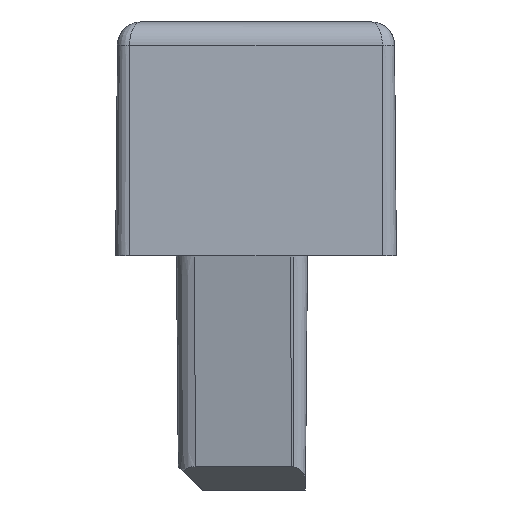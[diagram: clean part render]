
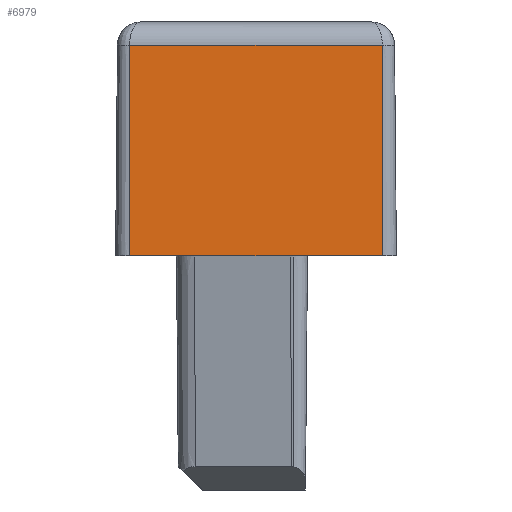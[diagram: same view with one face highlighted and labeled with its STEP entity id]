
A CAD part, left-side view. The second image highlights one B-rep face of the part: STEP entity #6979.
In plain terms, the highlighted planar face has unit normal (-1, 0, 0.009).
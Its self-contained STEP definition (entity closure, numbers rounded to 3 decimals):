
#96 = ORIENTED_EDGE ( 'NONE', *, *, #421, .F. ) ;
#328 = DIRECTION ( 'NONE',  ( 0.009, 0., 1. ) ) ;
#387 = LINE ( 'NONE', #7406, #1888 ) ;
#421 = EDGE_CURVE ( 'NONE', #7565, #6629, #8705, .T. ) ;
#423 = CARTESIAN_POINT ( 'NONE',  ( -5.5, 5.7, 0. ) ) ;
#766 = ORIENTED_EDGE ( 'NONE', *, *, #6085, .T. ) ;
#1029 = CARTESIAN_POINT ( 'NONE',  ( -5.461, 5.7, 4.504 ) ) ;
#1176 = VERTEX_POINT ( 'NONE', #5809 ) ;
#1250 = CARTESIAN_POINT ( 'NONE',  ( -5.461, 5.7, 4.504 ) ) ;
#1759 = VECTOR ( 'NONE', #4656, 1000. ) ;
#1830 = LINE ( 'NONE', #423, #1759 ) ;
#1888 = VECTOR ( 'NONE', #3150, 1000. ) ;
#1969 = DIRECTION ( 'NONE',  ( -0.009, 0., -1. ) ) ;
#2368 = PLANE ( 'NONE',  #7849 ) ;
#2606 = CARTESIAN_POINT ( 'NONE',  ( -5.5, 0.3, 0. ) ) ;
#2703 = CARTESIAN_POINT ( 'NONE',  ( -5.461, 0.3, 4.504 ) ) ;
#3150 = DIRECTION ( 'NONE',  ( -0.009, 0., -1. ) ) ;
#3524 = VERTEX_POINT ( 'NONE', #1029 ) ;
#3774 = CARTESIAN_POINT ( 'NONE',  ( -5.5, 5.7, 0. ) ) ;
#3874 = LINE ( 'NONE', #1250, #8756 ) ;
#3975 = EDGE_LOOP ( 'NONE', ( #96, #5991, #4025, #766 ) ) ;
#4012 = VECTOR ( 'NONE', #1969, 1000. ) ;
#4025 = ORIENTED_EDGE ( 'NONE', *, *, #7548, .T. ) ;
#4222 = EDGE_CURVE ( 'NONE', #7565, #3524, #3874, .T. ) ;
#4656 = DIRECTION ( 'NONE',  ( 0., -1., 0. ) ) ;
#5809 = CARTESIAN_POINT ( 'NONE',  ( -5.5, 5.7, 0. ) ) ;
#5991 = ORIENTED_EDGE ( 'NONE', *, *, #4222, .T. ) ;
#6085 = EDGE_CURVE ( 'NONE', #1176, #6629, #1830, .T. ) ;
#6558 = DIRECTION ( 'NONE',  ( -1., 0., 0.009 ) ) ;
#6629 = VERTEX_POINT ( 'NONE', #6812 ) ;
#6812 = CARTESIAN_POINT ( 'NONE',  ( -5.5, 0.3, 0. ) ) ;
#6979 = ADVANCED_FACE ( 'NONE', ( #8608 ), #2368, .T. ) ;
#7406 = CARTESIAN_POINT ( 'NONE',  ( -5.5, 5.7, 0. ) ) ;
#7548 = EDGE_CURVE ( 'NONE', #3524, #1176, #387, .T. ) ;
#7565 = VERTEX_POINT ( 'NONE', #2703 ) ;
#7849 = AXIS2_PLACEMENT_3D ( 'NONE', #3774, #6558, #328 ) ;
#8608 = FACE_OUTER_BOUND ( 'NONE', #3975, .T. ) ;
#8705 = LINE ( 'NONE', #2606, #4012 ) ;
#8751 = DIRECTION ( 'NONE',  ( 0., 1., 0. ) ) ;
#8756 = VECTOR ( 'NONE', #8751, 1000. ) ;
